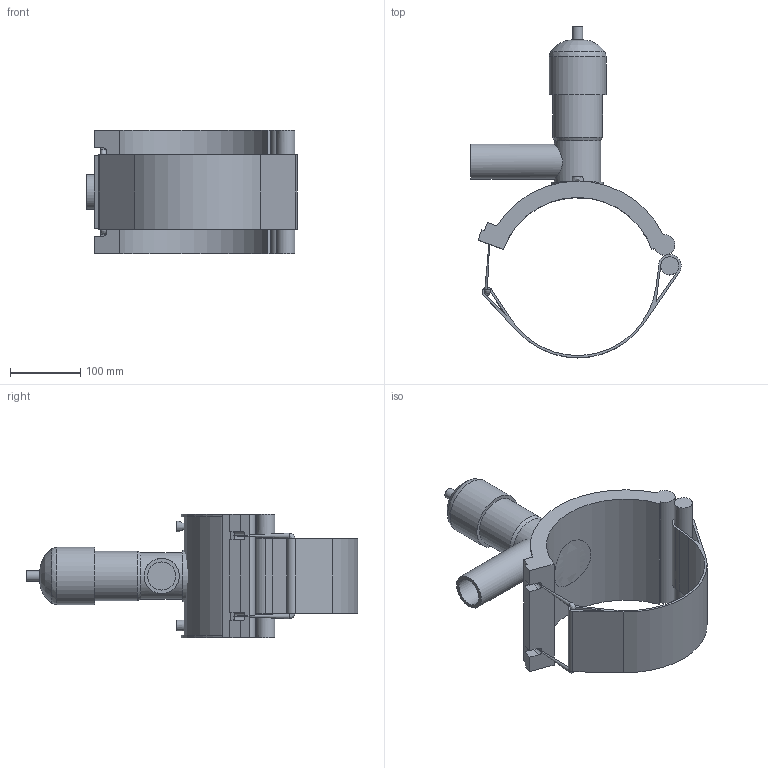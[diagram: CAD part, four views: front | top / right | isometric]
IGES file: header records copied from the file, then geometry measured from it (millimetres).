
Global section: file name: 495404225050.ipt; native system: Autodesk Inventor 2015; preprocessor: unknown; author: KIM; date: 20171106.094312; units: millimetre
Bounding box: 299.32 x 472.37 x 176 mm (x, y, z)
Volume: 2449088 mm3; surface area: 375925.3 mm2
Topology: 3 solids, 4 shells, 81 faces, 196 edges, 130 vertices
Faces by surface type: plane 45, cylinder 20, revolution 13, cone 3
Full cylindrical faces by diameter (mm): 4 x2, 7.65 x2, 14.64 x1, 25.615 x1, 50 x1, 65.88 x1, 70.76 x1, 73.2 x1, 81.333 x1
